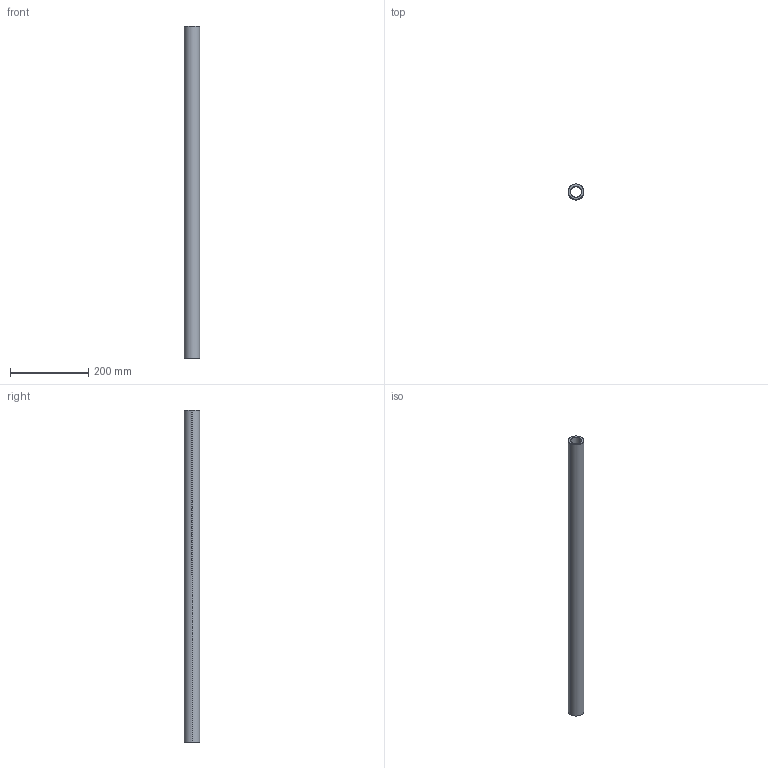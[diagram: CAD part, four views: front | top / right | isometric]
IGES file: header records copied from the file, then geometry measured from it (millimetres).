
Start section: SolidWorks IGES file using analytic representation for surfaces
Global section: file name: C:\Users\IanO\Desktop\L1771_v2\L1771.40_v2\L1771.40_v2_20230705_IGES\L1771.40-0850.igs; native system: SolidWorks 2019; preprocessor: SolidWorks 2019; author: IanO; date: 230705.160226; units: millimetre
Bounding box: 40 x 40 x 850 mm (x, y, z)
Surface area: 182865.8 mm2 (no closed solid volume)
Topology: 0 solids, 0 shells, 6 faces, 272 edges, 272 vertices
Faces by surface type: revolution 4, bspline 2
